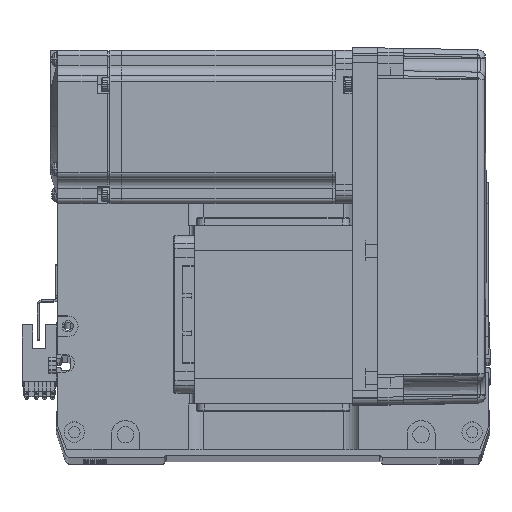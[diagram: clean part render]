
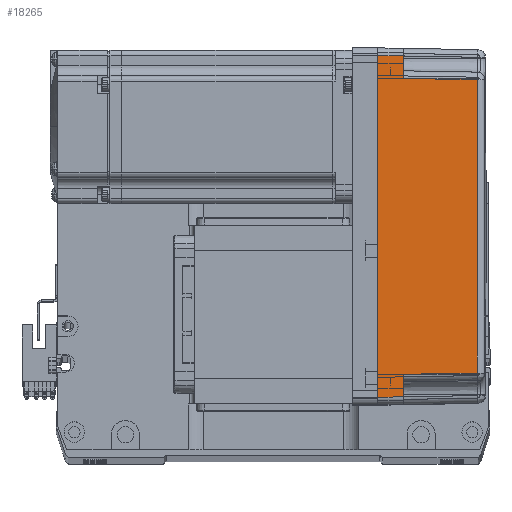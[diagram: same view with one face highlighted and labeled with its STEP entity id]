
A CAD part, top view. The second image highlights one B-rep face of the part: STEP entity #18265.
In plain terms, the highlighted planar face has unit normal (0.018, 0, 1) as drawn and (0, -1, 0.017) by its records, which use the part's own axes.
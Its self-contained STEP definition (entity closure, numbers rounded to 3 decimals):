
#527 = CARTESIAN_POINT ( 'NONE',  ( -57.495, -35.32, 38.985 ) ) ;
#2050 = VERTEX_POINT ( 'NONE', #27870 ) ;
#2251 = DIRECTION ( 'NONE',  ( -1., 0., 0. ) ) ;
#2462 = CARTESIAN_POINT ( 'NONE',  ( 70., -35.825, 10. ) ) ;
#2539 = PLANE ( 'NONE',  #19758 ) ;
#2622 = CARTESIAN_POINT ( 'NONE',  ( -58., -35.825, 10. ) ) ;
#4013 = EDGE_CURVE ( 'NONE', #40784, #14428, #62075, .T. ) ;
#7428 = VECTOR ( 'NONE', #2251, 1000. ) ;
#9268 = DIRECTION ( 'NONE',  ( -1., 0., 0. ) ) ;
#10410 = DIRECTION ( 'NONE',  ( -0.017, 0.017, 1. ) ) ;
#10624 = CARTESIAN_POINT ( 'NONE',  ( -66.826, -35.825, 10. ) ) ;
#10832 = LINE ( 'NONE', #56690, #50593 ) ;
#11710 = DIRECTION ( 'NONE',  ( 0., -1., 0.017 ) ) ;
#14428 = VERTEX_POINT ( 'NONE', #49938 ) ;
#15793 = VECTOR ( 'NONE', #10410, 1000. ) ;
#16692 = EDGE_CURVE ( 'NONE', #30879, #37243, #58921, .T. ) ;
#16880 = VECTOR ( 'NONE', #47736, 1000. ) ;
#17939 = CARTESIAN_POINT ( 'NONE',  ( 70., -35.825, 10. ) ) ;
#18125 = B_SPLINE_CURVE_WITH_KNOTS ( 'NONE', 3,
 ( #50201, #30184, #20340, #527 ),
 .UNSPECIFIED., .F., .F.,
 ( 4, 4 ),
 ( 0., 1. ),
 .UNSPECIFIED. ) ;
#18265 = ADVANCED_FACE ( 'NONE', ( #18735 ), #2539, .T. ) ;
#18307 = VECTOR ( 'NONE', #29365, 1000. ) ;
#18735 = FACE_OUTER_BOUND ( 'NONE', #58407, .T. ) ;
#19129 = LINE ( 'NONE', #2462, #7428 ) ;
#19758 = AXIS2_PLACEMENT_3D ( 'NONE', #27647, #11710, #46529 ) ;
#20340 = CARTESIAN_POINT ( 'NONE',  ( -19.165, -35.316, 39.181 ) ) ;
#22857 = DIRECTION ( 'NONE',  ( -0.017, -0.017, -1. ) ) ;
#25262 = LINE ( 'NONE', #27247, #58785 ) ;
#26067 = LINE ( 'NONE', #44085, #61961 ) ;
#26379 = ORIENTED_EDGE ( 'NONE', *, *, #4013, .T. ) ;
#27247 = CARTESIAN_POINT ( 'NONE',  ( -57.495, -35.32, 38.985 ) ) ;
#27647 = CARTESIAN_POINT ( 'NONE',  ( 70., -36., 0. ) ) ;
#27870 = CARTESIAN_POINT ( 'NONE',  ( -57.495, -35.32, 38.985 ) ) ;
#29365 = DIRECTION ( 'NONE',  ( 0.017, 0.017, 1. ) ) ;
#30027 = CARTESIAN_POINT ( 'NONE',  ( 58., -35.825, 10. ) ) ;
#30184 = CARTESIAN_POINT ( 'NONE',  ( 19.165, -35.316, 39.181 ) ) ;
#30200 = VERTEX_POINT ( 'NONE', #48723 ) ;
#30230 = CARTESIAN_POINT ( 'NONE',  ( 57.495, -35.32, 38.985 ) ) ;
#30324 = EDGE_CURVE ( 'NONE', #14428, #54395, #42246, .T. ) ;
#30879 = VERTEX_POINT ( 'NONE', #39693 ) ;
#36673 = EDGE_CURVE ( 'NONE', #54395, #2050, #18125, .T. ) ;
#36745 = ORIENTED_EDGE ( 'NONE', *, *, #57335, .T. ) ;
#37243 = VERTEX_POINT ( 'NONE', #10624 ) ;
#38875 = ORIENTED_EDGE ( 'NONE', *, *, #16692, .F. ) ;
#39156 = ORIENTED_EDGE ( 'NONE', *, *, #60514, .F. ) ;
#39296 = ORIENTED_EDGE ( 'NONE', *, *, #30324, .T. ) ;
#39693 = CARTESIAN_POINT ( 'NONE',  ( -67., -36., 0. ) ) ;
#40686 = CARTESIAN_POINT ( 'NONE',  ( 66.826, -35.825, 10. ) ) ;
#40784 = VERTEX_POINT ( 'NONE', #40686 ) ;
#42246 = LINE ( 'NONE', #30027, #15793 ) ;
#44085 = CARTESIAN_POINT ( 'NONE',  ( 0., -36., 0. ) ) ;
#46529 = DIRECTION ( 'NONE',  ( 0., -0.017, -1. ) ) ;
#47736 = DIRECTION ( 'NONE',  ( -1., 0., 0. ) ) ;
#48723 = CARTESIAN_POINT ( 'NONE',  ( 67., -36., 0. ) ) ;
#49938 = CARTESIAN_POINT ( 'NONE',  ( 58., -35.825, 10. ) ) ;
#50201 = CARTESIAN_POINT ( 'NONE',  ( 57.495, -35.32, 38.985 ) ) ;
#50593 = VECTOR ( 'NONE', #51657, 1000. ) ;
#51657 = DIRECTION ( 'NONE',  ( -0.017, 0.017, 1. ) ) ;
#52261 = VERTEX_POINT ( 'NONE', #2622 ) ;
#54395 = VERTEX_POINT ( 'NONE', #30230 ) ;
#54779 = ORIENTED_EDGE ( 'NONE', *, *, #55612, .T. ) ;
#55612 = EDGE_CURVE ( 'NONE', #52261, #37243, #19129, .T. ) ;
#56690 = CARTESIAN_POINT ( 'NONE',  ( 67., -36., 0. ) ) ;
#57335 = EDGE_CURVE ( 'NONE', #30200, #40784, #10832, .T. ) ;
#57775 = ORIENTED_EDGE ( 'NONE', *, *, #36673, .T. ) ;
#58407 = EDGE_LOOP ( 'NONE', ( #36745, #26379, #39296, #57775, #60826, #54779, #38875, #39156 ) ) ;
#58785 = VECTOR ( 'NONE', #22857, 1000. ) ;
#58921 = LINE ( 'NONE', #59217, #18307 ) ;
#59217 = CARTESIAN_POINT ( 'NONE',  ( -66.959, -35.958, 2.39 ) ) ;
#60514 = EDGE_CURVE ( 'NONE', #30200, #30879, #26067, .T. ) ;
#60826 = ORIENTED_EDGE ( 'NONE', *, *, #62111, .T. ) ;
#61961 = VECTOR ( 'NONE', #9268, 1000. ) ;
#62075 = LINE ( 'NONE', #17939, #16880 ) ;
#62111 = EDGE_CURVE ( 'NONE', #2050, #52261, #25262, .T. ) ;
